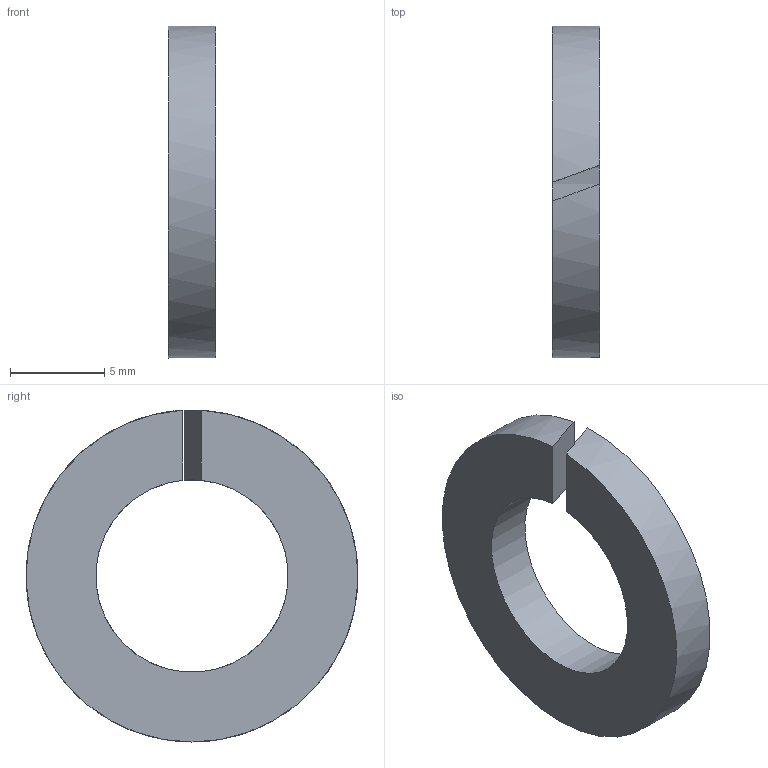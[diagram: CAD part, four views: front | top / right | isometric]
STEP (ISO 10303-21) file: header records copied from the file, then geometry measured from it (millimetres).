
FILE_DESCRIPTION(/* description */ ('스프링 잠금 와셔'),/* implementation_level */ '2;1');
FILE_NAME(/* name */ '',/* time_stamp */ '2024-08-09T13:02:09+09:00',/* author */ ('jhkim'),/* organization */ (''),/* preprocessor_version */ 'ST-DEVELOPER v20',/* originating_system */ 'Autodesk Inventor 2025',/* authorisation */ '');
FILE_SCHEMA (('AUTOMOTIVE_DESIGN { 1 0 10303 214 3 1 1 }'));
Length unit declared in the file: millimetre
Products named in the file (1): 스프링 와셔 M10
Bounding box: 2.5 x 17.59 x 17.6 mm (x, y, z)
Volume: 394.6 mm3; surface area: 548.8 mm2
Topology: 1 solids, 1 shells, 6 faces, 12 edges, 8 vertices
Faces by surface type: plane 4, cylinder 2
Entity records: 207 total; most frequent: DIRECTION 34, CARTESIAN_POINT 27, ORIENTED_EDGE 24, AXIS2_PLACEMENT_3D 15, EDGE_CURVE 12, VERTEX_POINT 8, FACE_OUTER_BOUND 6, EDGE_LOOP 6
